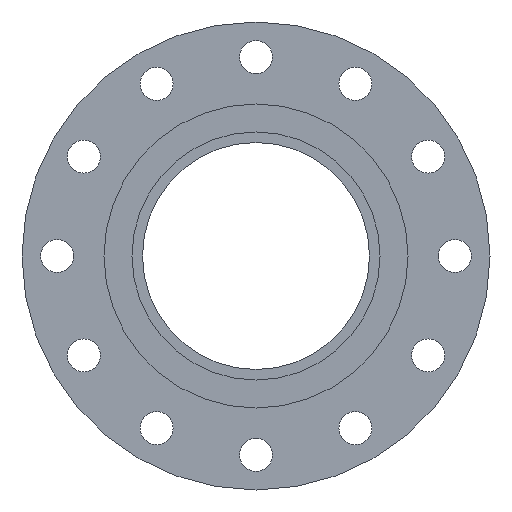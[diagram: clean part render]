
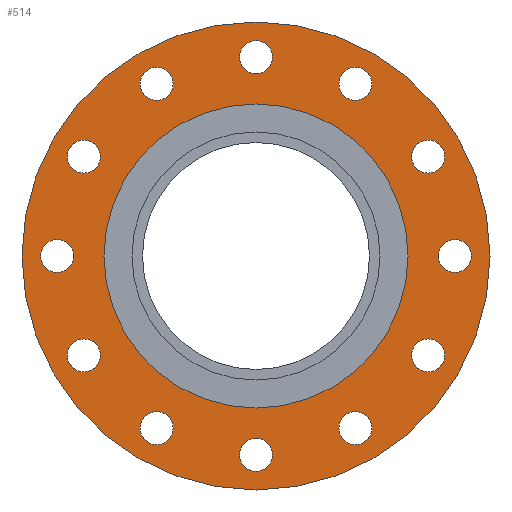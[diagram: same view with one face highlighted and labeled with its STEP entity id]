
A CAD part, left-side view. The second image highlights one B-rep face of the part: STEP entity #514.
In plain terms, the highlighted planar face has unit normal (-1, 0, 0).
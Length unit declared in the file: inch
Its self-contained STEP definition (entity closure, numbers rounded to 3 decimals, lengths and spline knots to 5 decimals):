
#14=FACE_BOUND('',#88,.T.);
#15=FACE_BOUND('',#89,.T.);
#16=FACE_BOUND('',#90,.T.);
#17=FACE_BOUND('',#91,.T.);
#18=FACE_BOUND('',#92,.T.);
#19=FACE_BOUND('',#93,.T.);
#20=FACE_BOUND('',#94,.T.);
#21=FACE_BOUND('',#95,.T.);
#22=FACE_BOUND('',#96,.T.);
#23=FACE_BOUND('',#97,.T.);
#24=FACE_BOUND('',#98,.T.);
#25=FACE_BOUND('',#99,.T.);
#26=FACE_BOUND('',#100,.T.);
#44=PLANE('',#586);
#63=FACE_OUTER_BOUND('',#87,.T.);
#87=EDGE_LOOP('',(#380,#381));
#88=EDGE_LOOP('',(#382));
#89=EDGE_LOOP('',(#383));
#90=EDGE_LOOP('',(#384));
#91=EDGE_LOOP('',(#385));
#92=EDGE_LOOP('',(#386));
#93=EDGE_LOOP('',(#387));
#94=EDGE_LOOP('',(#388));
#95=EDGE_LOOP('',(#389));
#96=EDGE_LOOP('',(#390));
#97=EDGE_LOOP('',(#391));
#98=EDGE_LOOP('',(#392));
#99=EDGE_LOOP('',(#393));
#100=EDGE_LOOP('',(#394,#395));
#165=CIRCLE('',#547,0.44);
#167=CIRCLE('',#550,0.44);
#169=CIRCLE('',#553,0.44);
#171=CIRCLE('',#556,0.44);
#173=CIRCLE('',#559,0.44);
#175=CIRCLE('',#562,0.44);
#177=CIRCLE('',#565,0.44);
#179=CIRCLE('',#568,0.44);
#181=CIRCLE('',#571,0.44);
#183=CIRCLE('',#574,0.44);
#185=CIRCLE('',#577,0.44);
#187=CIRCLE('',#580,0.44);
#188=CIRCLE('',#582,6.25);
#189=CIRCLE('',#583,6.25);
#192=CIRCLE('',#587,4.06);
#193=CIRCLE('',#588,4.06);
#213=VERTEX_POINT('',#785);
#215=VERTEX_POINT('',#791);
#217=VERTEX_POINT('',#797);
#219=VERTEX_POINT('',#803);
#221=VERTEX_POINT('',#809);
#223=VERTEX_POINT('',#815);
#225=VERTEX_POINT('',#821);
#227=VERTEX_POINT('',#827);
#229=VERTEX_POINT('',#833);
#231=VERTEX_POINT('',#839);
#233=VERTEX_POINT('',#845);
#235=VERTEX_POINT('',#851);
#236=VERTEX_POINT('',#855);
#237=VERTEX_POINT('',#856);
#240=VERTEX_POINT('',#865);
#241=VERTEX_POINT('',#866);
#262=EDGE_CURVE('',#213,#213,#165,.T.);
#265=EDGE_CURVE('',#215,#215,#167,.T.);
#268=EDGE_CURVE('',#217,#217,#169,.T.);
#271=EDGE_CURVE('',#219,#219,#171,.T.);
#274=EDGE_CURVE('',#221,#221,#173,.T.);
#277=EDGE_CURVE('',#223,#223,#175,.T.);
#280=EDGE_CURVE('',#225,#225,#177,.T.);
#283=EDGE_CURVE('',#227,#227,#179,.T.);
#286=EDGE_CURVE('',#229,#229,#181,.T.);
#289=EDGE_CURVE('',#231,#231,#183,.T.);
#292=EDGE_CURVE('',#233,#233,#185,.T.);
#295=EDGE_CURVE('',#235,#235,#187,.T.);
#296=EDGE_CURVE('',#236,#237,#188,.T.);
#297=EDGE_CURVE('',#237,#236,#189,.T.);
#301=EDGE_CURVE('',#240,#241,#192,.T.);
#302=EDGE_CURVE('',#241,#240,#193,.T.);
#380=ORIENTED_EDGE('',*,*,#296,.T.);
#381=ORIENTED_EDGE('',*,*,#297,.T.);
#382=ORIENTED_EDGE('',*,*,#262,.T.);
#383=ORIENTED_EDGE('',*,*,#265,.T.);
#384=ORIENTED_EDGE('',*,*,#268,.T.);
#385=ORIENTED_EDGE('',*,*,#271,.T.);
#386=ORIENTED_EDGE('',*,*,#274,.T.);
#387=ORIENTED_EDGE('',*,*,#277,.T.);
#388=ORIENTED_EDGE('',*,*,#280,.T.);
#389=ORIENTED_EDGE('',*,*,#283,.T.);
#390=ORIENTED_EDGE('',*,*,#286,.T.);
#391=ORIENTED_EDGE('',*,*,#289,.T.);
#392=ORIENTED_EDGE('',*,*,#292,.T.);
#393=ORIENTED_EDGE('',*,*,#295,.T.);
#394=ORIENTED_EDGE('',*,*,#301,.F.);
#395=ORIENTED_EDGE('',*,*,#302,.F.);
#514=ADVANCED_FACE('',(#63,#14,#15,#16,#17,#18,#19,#20,#21,#22,#23,#24,
#25,#26),#44,.T.);
#547=AXIS2_PLACEMENT_3D('',#787,#624,#625);
#550=AXIS2_PLACEMENT_3D('',#793,#631,#632);
#553=AXIS2_PLACEMENT_3D('',#799,#638,#639);
#556=AXIS2_PLACEMENT_3D('',#805,#645,#646);
#559=AXIS2_PLACEMENT_3D('',#811,#652,#653);
#562=AXIS2_PLACEMENT_3D('',#817,#659,#660);
#565=AXIS2_PLACEMENT_3D('',#823,#666,#667);
#568=AXIS2_PLACEMENT_3D('',#829,#673,#674);
#571=AXIS2_PLACEMENT_3D('',#835,#680,#681);
#574=AXIS2_PLACEMENT_3D('',#841,#687,#688);
#577=AXIS2_PLACEMENT_3D('',#847,#694,#695);
#580=AXIS2_PLACEMENT_3D('',#853,#701,#702);
#582=AXIS2_PLACEMENT_3D('',#857,#705,#706);
#583=AXIS2_PLACEMENT_3D('',#858,#707,#708);
#586=AXIS2_PLACEMENT_3D('',#864,#714,#715);
#587=AXIS2_PLACEMENT_3D('',#867,#716,#717);
#588=AXIS2_PLACEMENT_3D('',#868,#718,#719);
#624=DIRECTION('center_axis',(1.,0.,0.));
#625=DIRECTION('ref_axis',(0.,-0.5,0.866));
#631=DIRECTION('center_axis',(1.,0.,0.));
#632=DIRECTION('ref_axis',(0.,-0.866,0.5));
#638=DIRECTION('center_axis',(1.,0.,0.));
#639=DIRECTION('ref_axis',(0.,-1.,0.));
#645=DIRECTION('center_axis',(1.,0.,0.));
#646=DIRECTION('ref_axis',(0.,-0.866,-0.5));
#652=DIRECTION('center_axis',(1.,0.,0.));
#653=DIRECTION('ref_axis',(0.,-0.5,-0.866));
#659=DIRECTION('center_axis',(1.,0.,0.));
#660=DIRECTION('ref_axis',(0.,0.,-1.));
#666=DIRECTION('center_axis',(1.,0.,0.));
#667=DIRECTION('ref_axis',(0.,0.5,-0.866));
#673=DIRECTION('center_axis',(1.,0.,0.));
#674=DIRECTION('ref_axis',(0.,0.866,-0.5));
#680=DIRECTION('center_axis',(1.,0.,0.));
#681=DIRECTION('ref_axis',(0.,1.,0.));
#687=DIRECTION('center_axis',(1.,0.,0.));
#688=DIRECTION('ref_axis',(0.,0.866,0.5));
#694=DIRECTION('center_axis',(1.,0.,0.));
#695=DIRECTION('ref_axis',(0.,0.5,0.866));
#701=DIRECTION('center_axis',(1.,0.,0.));
#702=DIRECTION('ref_axis',(0.,0.,1.));
#705=DIRECTION('center_axis',(-1.,0.,0.));
#706=DIRECTION('ref_axis',(0.,0.,1.));
#707=DIRECTION('center_axis',(-1.,0.,0.));
#708=DIRECTION('ref_axis',(0.,0.,1.));
#714=DIRECTION('center_axis',(-1.,0.,0.));
#715=DIRECTION('ref_axis',(0.,0.,1.));
#716=DIRECTION('center_axis',(-1.,0.,0.));
#717=DIRECTION('ref_axis',(0.,0.,1.));
#718=DIRECTION('center_axis',(-1.,0.,0.));
#719=DIRECTION('ref_axis',(0.,0.,1.));
#785=CARTESIAN_POINT('',(-1.44,2.875,-4.97965));
#787=CARTESIAN_POINT('Origin',(-1.44,2.655,-4.59859));
#791=CARTESIAN_POINT('',(-1.44,4.97965,-2.875));
#793=CARTESIAN_POINT('Origin',(-1.44,4.59859,-2.655));
#797=CARTESIAN_POINT('',(-1.44,5.75,0.));
#799=CARTESIAN_POINT('Origin',(-1.44,5.31,0.));
#803=CARTESIAN_POINT('',(-1.44,4.97965,2.875));
#805=CARTESIAN_POINT('Origin',(-1.44,4.59859,2.655));
#809=CARTESIAN_POINT('',(-1.44,2.875,4.97965));
#811=CARTESIAN_POINT('Origin',(-1.44,2.655,4.59859));
#815=CARTESIAN_POINT('',(-1.44,0.,5.75));
#817=CARTESIAN_POINT('Origin',(-1.44,0.,5.31));
#821=CARTESIAN_POINT('',(-1.44,-2.875,4.97965));
#823=CARTESIAN_POINT('Origin',(-1.44,-2.655,4.59859));
#827=CARTESIAN_POINT('',(-1.44,-4.97965,2.875));
#829=CARTESIAN_POINT('Origin',(-1.44,-4.59859,2.655));
#833=CARTESIAN_POINT('',(-1.44,-5.75,0.));
#835=CARTESIAN_POINT('Origin',(-1.44,-5.31,0.));
#839=CARTESIAN_POINT('',(-1.44,-4.97965,-2.875));
#841=CARTESIAN_POINT('Origin',(-1.44,-4.59859,-2.655));
#845=CARTESIAN_POINT('',(-1.44,-2.875,-4.97965));
#847=CARTESIAN_POINT('Origin',(-1.44,-2.655,-4.59859));
#851=CARTESIAN_POINT('',(-1.44,0.,-5.75));
#853=CARTESIAN_POINT('Origin',(-1.44,0.,-5.31));
#855=CARTESIAN_POINT('',(-1.44,0.,6.25));
#856=CARTESIAN_POINT('',(-1.44,0.,-6.25));
#857=CARTESIAN_POINT('Origin',(-1.44,0.,0.));
#858=CARTESIAN_POINT('Origin',(-1.44,0.,0.));
#864=CARTESIAN_POINT('Origin',(-1.44,0.,5.155));
#865=CARTESIAN_POINT('',(-1.44,0.,4.06));
#866=CARTESIAN_POINT('',(-1.44,0.,-4.06));
#867=CARTESIAN_POINT('Origin',(-1.44,0.,0.));
#868=CARTESIAN_POINT('Origin',(-1.44,0.,0.));
